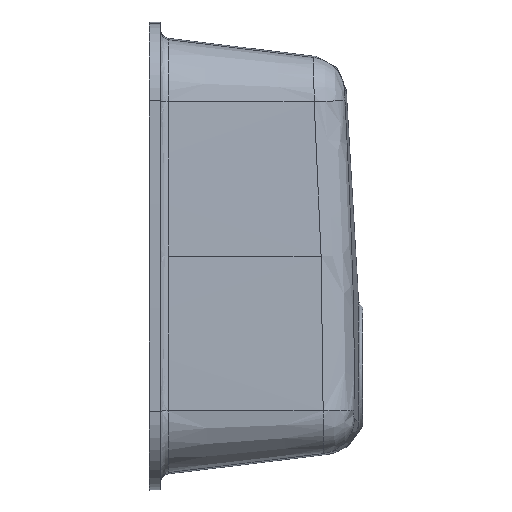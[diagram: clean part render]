
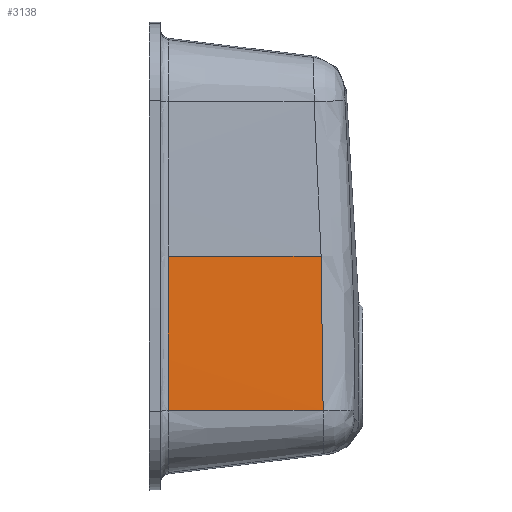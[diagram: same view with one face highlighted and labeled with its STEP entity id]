
A CAD part, left-side view. The second image highlights one B-rep face of the part: STEP entity #3138.
In plain terms, the highlighted conical face has half-angle 7 degrees and reference radius 6406.69 mm.
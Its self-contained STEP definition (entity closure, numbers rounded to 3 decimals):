
#72 = CARTESIAN_POINT ( 'NONE',  ( -186.361, 24.363, -82.962 ) ) ;
#233 = AXIS2_PLACEMENT_3D ( 'NONE', #2945, #2378, #4204 ) ;
#521 = CARTESIAN_POINT ( 'NONE',  ( -184.936, 24.304, -158.204 ) ) ;
#542 = CARTESIAN_POINT ( 'NONE',  ( -186.321, 24.325, -85.639 ) ) ;
#598 = CARTESIAN_POINT ( 'NONE',  ( -185.426, 24.102, -135.773 ) ) ;
#802 = VERTEX_POINT ( 'NONE', #3798 ) ;
#816 = CARTESIAN_POINT ( 'NONE',  ( -186.683, 24.805, -58.976 ) ) ;
#842 = CARTESIAN_POINT ( 'NONE',  ( -186.463, 24.465, -76.021 ) ) ;
#1089 = VERTEX_POINT ( 'NONE', #3498 ) ;
#1193 = CARTESIAN_POINT ( 'NONE',  ( -184.768, 24.414, -165.228 ) ) ;
#1213 = CARTESIAN_POINT ( 'NONE',  ( 6199.443, 190.048, 0.004 ) ) ;
#1284 = CARTESIAN_POINT ( 'NONE',  ( -186.364, 24.366, -82.77 ) ) ;
#1433 = CARTESIAN_POINT ( 'NONE',  ( -186.867, 25.224, -42.069 ) ) ;
#1500 = CIRCLE ( 'NONE', #4095, 6406.686 ) ;
#1698 = EDGE_CURVE ( 'NONE', #2616, #802, #6231, .T. ) ;
#1870 = CARTESIAN_POINT ( 'NONE',  ( -186.365, 24.367, -82.688 ) ) ;
#1883 = CARTESIAN_POINT ( 'NONE',  ( -207.507, 209.67, -165.816 ) ) ;
#1922 = CARTESIAN_POINT ( 'NONE',  ( -186.874, 25.244, -41.309 ) ) ;
#1950 = CARTESIAN_POINT ( 'NONE',  ( -187.001, 25.594, -28.43 ) ) ;
#2268 = ORIENTED_EDGE ( 'NONE', *, *, #5519, .F. ) ;
#2302 = CARTESIAN_POINT ( 'NONE',  ( -185.629, 24.073, -125.583 ) ) ;
#2307 = CARTESIAN_POINT ( 'NONE',  ( -207.243, 190.048, 0.004 ) ) ;
#2378 = DIRECTION ( 'NONE',  ( 0., 1., 0. ) ) ;
#2433 = ORIENTED_EDGE ( 'NONE', *, *, #1698, .T. ) ;
#2577 = EDGE_CURVE ( 'NONE', #5800, #1089, #1500, .T. ) ;
#2592 = CARTESIAN_POINT ( 'NONE',  ( -186.744, 24.924, -53.753 ) ) ;
#2616 = VERTEX_POINT ( 'NONE', #3545 ) ;
#2902 = CARTESIAN_POINT ( 'NONE',  ( -186.179, 24.212, -94.783 ) ) ;
#2936 = LINE ( 'NONE', #1883, #5437 ) ;
#2945 = CARTESIAN_POINT ( 'NONE',  ( 6199.443, 190.048, 0.004 ) ) ;
#2948 = EDGE_CURVE ( 'NONE', #802, #5800, #7350, .T. ) ;
#3110 = CARTESIAN_POINT ( 'NONE',  ( -186.874, 25.245, -41.294 ) ) ;
#3138 = ADVANCED_FACE ( 'NONE', ( #7344 ), #5211, .T. ) ;
#3140 = CARTESIAN_POINT ( 'NONE',  ( -187.17, 26.564, 0.004 ) ) ;
#3471 = CARTESIAN_POINT ( 'NONE',  ( -185.596, 24.076, -127.276 ) ) ;
#3498 = CARTESIAN_POINT ( 'NONE',  ( -205.099, 190.048, -165.754 ) ) ;
#3545 = CARTESIAN_POINT ( 'NONE',  ( -184.768, 24.414, -165.228 ) ) ;
#3742 = ORIENTED_EDGE ( 'NONE', *, *, #2948, .T. ) ;
#3765 = CARTESIAN_POINT ( 'NONE',  ( -186.366, 24.368, -82.604 ) ) ;
#3798 = CARTESIAN_POINT ( 'NONE',  ( -187.17, 26.564, 0.004 ) ) ;
#3981 = DIRECTION ( 'NONE',  ( -0.122, 0.993, 0. ) ) ;
#4085 = CARTESIAN_POINT ( 'NONE',  ( -186.275, 24.285, -88.694 ) ) ;
#4095 = AXIS2_PLACEMENT_3D ( 'NONE', #1213, #5891, #5268 ) ;
#4138 = CARTESIAN_POINT ( 'NONE',  ( -185.174, 24.179, -147.77 ) ) ;
#4204 = DIRECTION ( 'NONE',  ( -1., 0., 0. ) ) ;
#4350 = CARTESIAN_POINT ( 'NONE',  ( -186.555, 24.586, -69.301 ) ) ;
#4376 = CARTESIAN_POINT ( 'NONE',  ( -186.811, 25.079, -47.553 ) ) ;
#4443 = ORIENTED_EDGE ( 'NONE', *, *, #2577, .T. ) ;
#4938 = CARTESIAN_POINT ( 'NONE',  ( -186.843, 25.161, -44.426 ) ) ;
#4992 = CARTESIAN_POINT ( 'NONE',  ( -186.859, 25.203, -42.856 ) ) ;
#5020 = CARTESIAN_POINT ( 'NONE',  ( -186.874, 25.242, -41.38 ) ) ;
#5211 = CONICAL_SURFACE ( 'NONE', #233, 6406.686, 0.122 ) ;
#5268 = DIRECTION ( 'NONE',  ( 0., 0., 1. ) ) ;
#5437 = VECTOR ( 'NONE', #6638, 1000. ) ;
#5481 = CARTESIAN_POINT ( 'NONE',  ( -186.874, 25.244, -41.337 ) ) ;
#5519 = EDGE_CURVE ( 'NONE', #2616, #1089, #2936, .T. ) ;
#5577 = CARTESIAN_POINT ( 'NONE',  ( -186.871, 25.234, -41.675 ) ) ;
#5761 = VECTOR ( 'NONE', #3981, 1000. ) ;
#5800 = VERTEX_POINT ( 'NONE', #2307 ) ;
#5868 = CARTESIAN_POINT ( 'NONE',  ( -185.793, 24.068, -117.125 ) ) ;
#5891 = DIRECTION ( 'NONE',  ( 0., -1., 0. ) ) ;
#5892 = CARTESIAN_POINT ( 'NONE',  ( -186.344, 24.347, -84.11 ) ) ;
#6231 = B_SPLINE_CURVE_WITH_KNOTS ( 'NONE', 3,
 ( #1193, #521, #4138, #598, #6534, #3471, #2302, #7645, #5868, #6460, #2902, #4085, #542, #5892, #7212, #72, #1284, #1870, #6557, #3765, #842, #4350, #816, #2592, #4376, #4938, #4992, #1433, #5577, #6672, #5020, #5481, #1922, #3110, #1950, #6701, #3140 ),
 .UNSPECIFIED., .F., .F.,
 ( 4, 1, 1, 1, 2, 2, 1, 1, 1, 1, 1, 1, 1, 1, 2, 2, 2, 1, 1, 1, 1, 1, 1, 1, 1, 2, 2, 4 ),
 ( 0., 0.062, 0.094, 0.109, 0.117, 0.125, 0.187, 0.219, 0.234, 0.242, 0.246, 0.248, 0.249, 0.249, 0.25, 0.25, 0.312, 0.344, 0.359, 0.367, 0.371, 0.373, 0.374, 0.374, 0.375, 0.375, 0.375, 0.5 ),
 .UNSPECIFIED. ) ;
#6353 = CARTESIAN_POINT ( 'NONE',  ( -207.243, 190.048, 0.004 ) ) ;
#6460 = CARTESIAN_POINT ( 'NONE',  ( -185.98, 24.102, -106.885 ) ) ;
#6534 = CARTESIAN_POINT ( 'NONE',  ( -185.546, 24.081, -129.818 ) ) ;
#6557 = CARTESIAN_POINT ( 'NONE',  ( -186.366, 24.368, -82.633 ) ) ;
#6626 = EDGE_LOOP ( 'NONE', ( #2433, #3742, #4443, #2268 ) ) ;
#6638 = DIRECTION ( 'NONE',  ( -0.122, 0.993, -0.003 ) ) ;
#6672 = CARTESIAN_POINT ( 'NONE',  ( -186.873, 25.24, -41.478 ) ) ;
#6701 = CARTESIAN_POINT ( 'NONE',  ( -187.105, 26.034, -14.668 ) ) ;
#7212 = CARTESIAN_POINT ( 'NONE',  ( -186.355, 24.358, -83.344 ) ) ;
#7344 = FACE_OUTER_BOUND ( 'NONE', #6626, .T. ) ;
#7350 = LINE ( 'NONE', #6353, #5761 ) ;
#7645 = CARTESIAN_POINT ( 'NONE',  ( -185.646, 24.073, -124.739 ) ) ;
